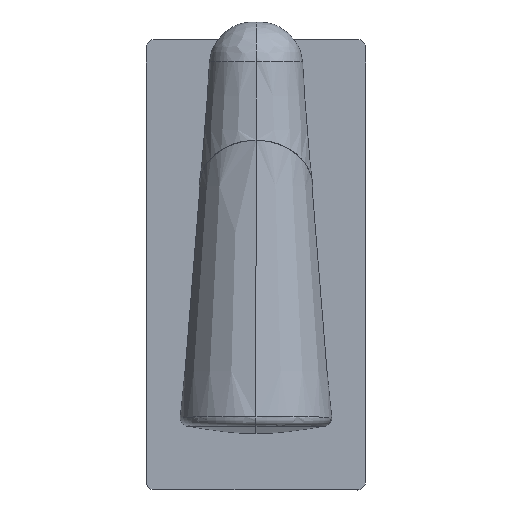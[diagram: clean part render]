
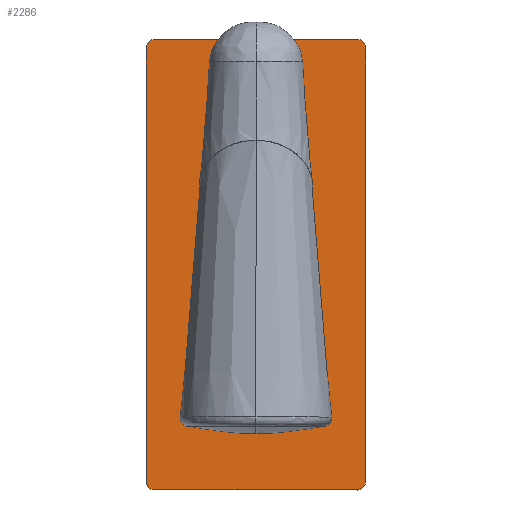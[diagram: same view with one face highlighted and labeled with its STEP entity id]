
A CAD part, top view. The second image highlights one B-rep face of the part: STEP entity #2286.
In plain terms, the highlighted planar face has unit normal (0, 0, 1).
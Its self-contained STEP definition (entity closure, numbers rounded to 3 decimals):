
#27=FACE_BOUND('',#514,.T.);
#234=CIRCLE('',#2500,2.981);
#236=CIRCLE('',#2504,2.981);
#238=CIRCLE('',#2508,2.981);
#240=CIRCLE('',#2512,2.981);
#361=FACE_OUTER_BOUND('',#513,.T.);
#513=EDGE_LOOP('',(#1949,#1950,#1951,#1952,#1953,#1954,#1955,#1956));
#514=EDGE_LOOP('',(#1957,#1958,#1959,#1960));
#671=LINE('',#4140,#865);
#675=LINE('',#4148,#869);
#678=LINE('',#4154,#872);
#681=LINE('',#4159,#875);
#685=LINE('',#4172,#879);
#689=LINE('',#4184,#883);
#693=LINE('',#4196,#887);
#697=LINE('',#4207,#891);
#865=VECTOR('',#3013,304.8);
#869=VECTOR('',#3019,304.8);
#872=VECTOR('',#3024,304.8);
#875=VECTOR('',#3029,304.8);
#879=VECTOR('',#3041,304.8);
#883=VECTOR('',#3053,304.8);
#887=VECTOR('',#3065,304.8);
#891=VECTOR('',#3077,304.8);
#1068=VERTEX_POINT('',#4138);
#1069=VERTEX_POINT('',#4139);
#1072=VERTEX_POINT('',#4147);
#1074=VERTEX_POINT('',#4153);
#1076=VERTEX_POINT('',#4162);
#1077=VERTEX_POINT('',#4163);
#1080=VERTEX_POINT('',#4171);
#1082=VERTEX_POINT('',#4177);
#1084=VERTEX_POINT('',#4183);
#1086=VERTEX_POINT('',#4189);
#1088=VERTEX_POINT('',#4195);
#1090=VERTEX_POINT('',#4201);
#1347=EDGE_CURVE('',#1068,#1069,#671,.T.);
#1351=EDGE_CURVE('',#1072,#1068,#675,.T.);
#1354=EDGE_CURVE('',#1074,#1072,#678,.T.);
#1357=EDGE_CURVE('',#1069,#1074,#681,.T.);
#1359=EDGE_CURVE('',#1076,#1077,#234,.T.);
#1363=EDGE_CURVE('',#1080,#1076,#685,.T.);
#1366=EDGE_CURVE('',#1082,#1080,#236,.T.);
#1369=EDGE_CURVE('',#1084,#1082,#689,.T.);
#1372=EDGE_CURVE('',#1086,#1084,#238,.T.);
#1375=EDGE_CURVE('',#1088,#1086,#693,.T.);
#1378=EDGE_CURVE('',#1090,#1088,#240,.T.);
#1381=EDGE_CURVE('',#1077,#1090,#697,.T.);
#1949=ORIENTED_EDGE('',*,*,#1381,.T.);
#1950=ORIENTED_EDGE('',*,*,#1378,.T.);
#1951=ORIENTED_EDGE('',*,*,#1375,.T.);
#1952=ORIENTED_EDGE('',*,*,#1372,.T.);
#1953=ORIENTED_EDGE('',*,*,#1369,.T.);
#1954=ORIENTED_EDGE('',*,*,#1366,.T.);
#1955=ORIENTED_EDGE('',*,*,#1363,.T.);
#1956=ORIENTED_EDGE('',*,*,#1359,.T.);
#1957=ORIENTED_EDGE('',*,*,#1357,.T.);
#1958=ORIENTED_EDGE('',*,*,#1354,.T.);
#1959=ORIENTED_EDGE('',*,*,#1351,.T.);
#1960=ORIENTED_EDGE('',*,*,#1347,.T.);
#2161=PLANE('',#2516);
#2286=ADVANCED_FACE('',(#361,#27),#2161,.T.);
#2500=AXIS2_PLACEMENT_3D('',#4164,#3033,#3034);
#2504=AXIS2_PLACEMENT_3D('',#4178,#3046,#3047);
#2508=AXIS2_PLACEMENT_3D('',#4190,#3058,#3059);
#2512=AXIS2_PLACEMENT_3D('',#4202,#3070,#3071);
#2516=AXIS2_PLACEMENT_3D('',#4210,#3081,#3082);
#3013=DIRECTION('',(1.,0.,0.));
#3019=DIRECTION('',(0.,1.,0.));
#3024=DIRECTION('',(-1.,0.,0.));
#3029=DIRECTION('',(0.,-1.,0.));
#3033=DIRECTION('center_axis',(0.,0.,1.));
#3034=DIRECTION('ref_axis',(-1.,0.,0.));
#3041=DIRECTION('',(0.,1.,0.));
#3046=DIRECTION('center_axis',(0.,0.,1.));
#3047=DIRECTION('ref_axis',(-1.,0.,0.));
#3053=DIRECTION('',(1.,0.,0.));
#3058=DIRECTION('center_axis',(0.,0.,1.));
#3059=DIRECTION('ref_axis',(1.,0.,0.));
#3065=DIRECTION('',(0.,-1.,0.));
#3070=DIRECTION('center_axis',(0.,0.,1.));
#3071=DIRECTION('ref_axis',(1.,0.,0.));
#3077=DIRECTION('',(-1.,0.,0.));
#3081=DIRECTION('center_axis',(0.,0.,1.));
#3082=DIRECTION('ref_axis',(-1.,0.,0.));
#4138=CARTESIAN_POINT('',(41.5,1.4,23.2));
#4139=CARTESIAN_POINT('',(68.5,1.4,23.2));
#4140=CARTESIAN_POINT('',(41.5,1.4,23.2));
#4147=CARTESIAN_POINT('',(41.5,-1.4,23.2));
#4148=CARTESIAN_POINT('',(41.5,-1.4,23.2));
#4153=CARTESIAN_POINT('',(68.5,-1.4,23.2));
#4154=CARTESIAN_POINT('',(68.5,-1.4,23.2));
#4159=CARTESIAN_POINT('',(68.5,1.4,23.2));
#4162=CARTESIAN_POINT('',(102.,35.019,23.2));
#4163=CARTESIAN_POINT('',(99.,38.,23.2));
#4164=CARTESIAN_POINT('Origin',(99.,35.019,23.2));
#4171=CARTESIAN_POINT('',(101.982,-35.,23.2));
#4172=CARTESIAN_POINT('',(102.,-35.,23.2));
#4177=CARTESIAN_POINT('',(99.,-38.,23.2));
#4178=CARTESIAN_POINT('Origin',(99.,-35.019,23.2));
#4183=CARTESIAN_POINT('',(-51.019,-38.,23.2));
#4184=CARTESIAN_POINT('',(-51.019,-38.,23.2));
#4189=CARTESIAN_POINT('',(-54.,-35.019,23.2));
#4190=CARTESIAN_POINT('Origin',(-51.019,-35.019,23.2));
#4195=CARTESIAN_POINT('',(-54.,35.019,23.2));
#4196=CARTESIAN_POINT('',(-54.,35.019,23.2));
#4201=CARTESIAN_POINT('',(-51.019,38.,23.2));
#4202=CARTESIAN_POINT('Origin',(-51.019,35.019,23.2));
#4207=CARTESIAN_POINT('',(99.,38.,23.2));
#4210=CARTESIAN_POINT('Origin',(-51.,38.,23.2));
